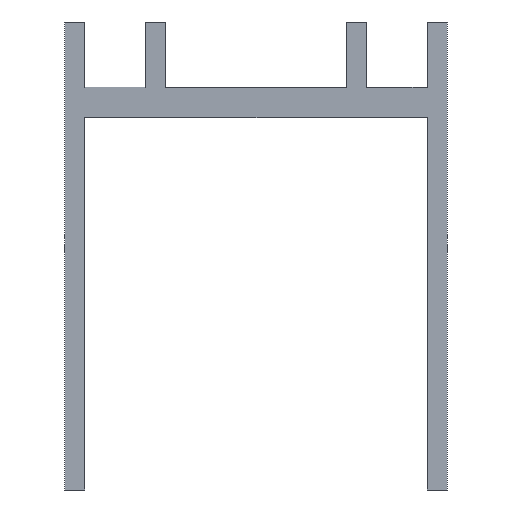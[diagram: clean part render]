
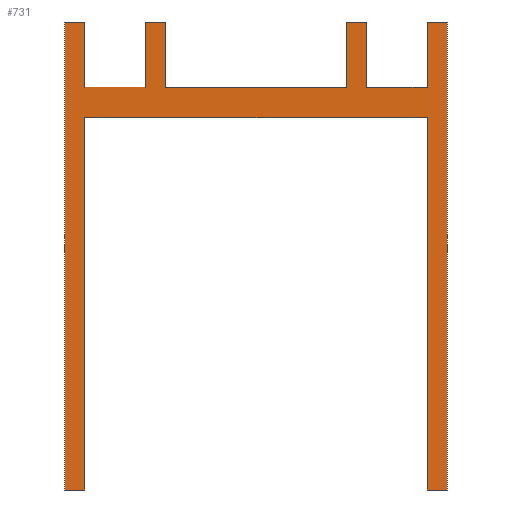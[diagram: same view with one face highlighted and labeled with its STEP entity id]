
A CAD part, left-side view. The second image highlights one B-rep face of the part: STEP entity #731.
In plain terms, the highlighted planar face has unit normal (-1, 0, 0).
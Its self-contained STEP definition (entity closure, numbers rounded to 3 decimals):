
#731=ADVANCED_FACE('',(#1305),#1306,.F.);
#1305=FACE_OUTER_BOUND('',#2034,.T.);
#1306=PLANE('',#2035);
#2034=EDGE_LOOP('',(#2889,#2890,#2891,#2892,#2893,#2894,#2895,#2896,#2897,#2898,#2899,#2900,#2901,#2902,#2903,#2904,#2905,#2906,#2907,#2908,#2909,#2910,#2911,#2912));
#2035=AXIS2_PLACEMENT_3D('',#2913,#2914,#2915);
#2889=ORIENTED_EDGE('',*,*,#3540,.T.);
#2890=ORIENTED_EDGE('',*,*,#3484,.F.);
#2891=ORIENTED_EDGE('',*,*,#3489,.F.);
#2892=ORIENTED_EDGE('',*,*,#3492,.F.);
#2893=ORIENTED_EDGE('',*,*,#3495,.T.);
#2894=ORIENTED_EDGE('',*,*,#3499,.T.);
#2895=ORIENTED_EDGE('',*,*,#3450,.T.);
#2896=ORIENTED_EDGE('',*,*,#3472,.F.);
#2897=ORIENTED_EDGE('',*,*,#3475,.F.);
#2898=ORIENTED_EDGE('',*,*,#3542,.F.);
#2899=ORIENTED_EDGE('',*,*,#3502,.F.);
#2900=ORIENTED_EDGE('',*,*,#3360,.F.);
#2901=ORIENTED_EDGE('',*,*,#3356,.T.);
#2902=ORIENTED_EDGE('',*,*,#3343,.T.);
#2903=ORIENTED_EDGE('',*,*,#3358,.F.);
#2904=ORIENTED_EDGE('',*,*,#3314,.F.);
#2905=ORIENTED_EDGE('',*,*,#3509,.T.);
#2906=ORIENTED_EDGE('',*,*,#3513,.T.);
#2907=ORIENTED_EDGE('',*,*,#3517,.F.);
#2908=ORIENTED_EDGE('',*,*,#3521,.T.);
#2909=ORIENTED_EDGE('',*,*,#3525,.T.);
#2910=ORIENTED_EDGE('',*,*,#3529,.F.);
#2911=ORIENTED_EDGE('',*,*,#3533,.F.);
#2912=ORIENTED_EDGE('',*,*,#3537,.F.);
#2913=CARTESIAN_POINT('',(0.0,26.75,7.5));
#2914=DIRECTION('',(1.0,0.,0.));
#2915=DIRECTION('',(0.,-1.0,0.0));
#3314=EDGE_CURVE('',#3848,#3821,#3850,.T.);
#3343=EDGE_CURVE('',#3894,#3892,#3895,.T.);
#3356=EDGE_CURVE('',#3909,#3894,#3912,.T.);
#3358=EDGE_CURVE('',#3821,#3892,#3914,.T.);
#3360=EDGE_CURVE('',#3909,#3916,#3917,.T.);
#3450=EDGE_CURVE('',#4058,#4056,#4059,.T.);
#3472=EDGE_CURVE('',#4083,#4056,#4085,.T.);
#3475=EDGE_CURVE('',#4087,#4083,#4090,.T.);
#3484=EDGE_CURVE('',#4100,#4102,#4103,.T.);
#3489=EDGE_CURVE('',#4108,#4100,#4110,.T.);
#3492=EDGE_CURVE('',#4113,#4108,#4115,.T.);
#3495=EDGE_CURVE('',#4113,#4118,#4119,.T.);
#3499=EDGE_CURVE('',#4118,#4058,#4124,.T.);
#3502=EDGE_CURVE('',#3916,#4127,#4128,.T.);
#3509=EDGE_CURVE('',#3848,#4136,#4138,.T.);
#3513=EDGE_CURVE('',#4136,#4142,#4144,.T.);
#3517=EDGE_CURVE('',#4148,#4142,#4150,.T.);
#3521=EDGE_CURVE('',#4148,#4154,#4156,.T.);
#3525=EDGE_CURVE('',#4154,#4160,#4162,.T.);
#3529=EDGE_CURVE('',#4166,#4160,#4168,.T.);
#3533=EDGE_CURVE('',#4172,#4166,#4174,.T.);
#3537=EDGE_CURVE('',#4178,#4172,#4180,.T.);
#3540=EDGE_CURVE('',#4178,#4102,#4183,.T.);
#3542=EDGE_CURVE('',#4127,#4087,#4185,.T.);
#3821=VERTEX_POINT('',#4291);
#3848=VERTEX_POINT('',#4324);
#3850=LINE('',#4327,#4328);
#3892=VERTEX_POINT('',#4382);
#3894=VERTEX_POINT('',#4384);
#3895=LINE('',#4385,#4386);
#3909=VERTEX_POINT('',#4403);
#3912=LINE('',#4407,#4408);
#3914=LINE('',#4410,#4411);
#3916=VERTEX_POINT('',#4413);
#3917=LINE('',#4414,#4415);
#4056=VERTEX_POINT('',#4606);
#4058=VERTEX_POINT('',#4609);
#4059=LINE('',#4610,#4611);
#4083=VERTEX_POINT('',#4650);
#4085=LINE('',#4653,#4654);
#4087=VERTEX_POINT('',#4656);
#4090=LINE('',#4660,#4661);
#4100=VERTEX_POINT('',#4677);
#4102=VERTEX_POINT('',#4680);
#4103=LINE('',#4681,#4682);
#4108=VERTEX_POINT('',#4689);
#4110=LINE('',#4692,#4693);
#4113=VERTEX_POINT('',#4696);
#4115=LINE('',#4699,#4700);
#4118=VERTEX_POINT('',#4704);
#4119=LINE('',#4705,#4706);
#4124=LINE('',#4713,#4714);
#4127=VERTEX_POINT('',#4718);
#4128=LINE('',#4719,#4720);
#4136=VERTEX_POINT('',#4731);
#4138=LINE('',#4734,#4735);
#4142=VERTEX_POINT('',#4740);
#4144=LINE('',#4743,#4744);
#4148=VERTEX_POINT('',#4749);
#4150=LINE('',#4752,#4753);
#4154=VERTEX_POINT('',#4758);
#4156=LINE('',#4761,#4762);
#4160=VERTEX_POINT('',#4767);
#4162=LINE('',#4770,#4771);
#4166=VERTEX_POINT('',#4776);
#4168=LINE('',#4779,#4780);
#4172=VERTEX_POINT('',#4785);
#4174=LINE('',#4788,#4789);
#4178=VERTEX_POINT('',#4794);
#4180=LINE('',#4797,#4798);
#4183=LINE('',#4802,#4803);
#4185=LINE('',#4805,#4806);
#4291=CARTESIAN_POINT('',(0.0,11.005,40.0));
#4324=CARTESIAN_POINT('',(0.0,17.0,40.0));
#4327=CARTESIAN_POINT('',(0.0,17.0,40.0));
#4328=VECTOR('',#4891,1.0);
#4382=CARTESIAN_POINT('',(0.0,11.005,40.005));
#4384=CARTESIAN_POINT('',(0.0,11.003,40.005));
#4385=CARTESIAN_POINT('',(0.0,11.003,40.005));
#4386=VECTOR('',#4931,1.0);
#4403=CARTESIAN_POINT('',(0.0,11.003,40.0));
#4407=CARTESIAN_POINT('',(0.0,11.003,40.0));
#4408=VECTOR('',#4948,1.0);
#4410=CARTESIAN_POINT('',(0.0,11.005,40.0));
#4411=VECTOR('',#4949,1.0);
#4413=CARTESIAN_POINT('',(0.0,11.0,40.0));
#4414=CARTESIAN_POINT('',(0.0,17.0,40.0));
#4415=VECTOR('',#4950,1.0);
#4606=CARTESIAN_POINT('',(0.0,-9.0,40.0));
#4609=CARTESIAN_POINT('',(0.0,-9.0,46.5));
#4610=CARTESIAN_POINT('',(0.0,-9.0,46.5));
#4611=VECTOR('',#5040,1.0);
#4650=CARTESIAN_POINT('',(0.0,9.0,40.0));
#4653=CARTESIAN_POINT('',(0.0,17.0,40.0));
#4654=VECTOR('',#5057,1.0);
#4656=CARTESIAN_POINT('',(0.0,9.0,46.5));
#4660=CARTESIAN_POINT('',(0.0,9.0,46.5));
#4661=VECTOR('',#5059,1.0);
#4677=CARTESIAN_POINT('',(0.0,-17.0,46.5));
#4680=CARTESIAN_POINT('',(0.0,-19.0,46.5));
#4681=CARTESIAN_POINT('',(0.0,-17.0,46.5));
#4682=VECTOR('',#5067,1.0);
#4689=CARTESIAN_POINT('',(0.0,-17.0,40.0));
#4692=CARTESIAN_POINT('',(0.0,-17.0,0.0));
#4693=VECTOR('',#5071,1.0);
#4696=CARTESIAN_POINT('',(0.0,-11.0,40.0));
#4699=CARTESIAN_POINT('',(0.0,17.0,40.0));
#4700=VECTOR('',#5073,1.0);
#4704=CARTESIAN_POINT('',(0.0,-11.0,46.5));
#4705=CARTESIAN_POINT('',(0.0,-11.0,40.0));
#4706=VECTOR('',#5075,1.0);
#4713=CARTESIAN_POINT('',(0.0,-11.0,46.5));
#4714=VECTOR('',#5078,1.0);
#4718=CARTESIAN_POINT('',(0.0,11.0,46.5));
#4719=CARTESIAN_POINT('',(0.0,11.0,40.0));
#4720=VECTOR('',#5080,1.0);
#4731=CARTESIAN_POINT('',(0.0,17.0,46.5));
#4734=CARTESIAN_POINT('',(0.0,17.0,0.0));
#4735=VECTOR('',#5085,1.0);
#4740=CARTESIAN_POINT('',(0.0,19.0,46.5));
#4743=CARTESIAN_POINT('',(0.0,17.0,46.5));
#4744=VECTOR('',#5088,1.0);
#4749=CARTESIAN_POINT('',(0.0,19.0,0.0));
#4752=CARTESIAN_POINT('',(0.0,19.,7.5));
#4753=VECTOR('',#5091,1.0);
#4758=CARTESIAN_POINT('',(0.0,17.0,0.0));
#4761=CARTESIAN_POINT('',(0.0,19.5,0.0));
#4762=VECTOR('',#5094,1.0);
#4767=CARTESIAN_POINT('',(0.0,17.0,37.0));
#4770=CARTESIAN_POINT('',(0.0,17.0,0.0));
#4771=VECTOR('',#5097,1.0);
#4776=CARTESIAN_POINT('',(0.0,-17.0,37.0));
#4779=CARTESIAN_POINT('',(0.0,-17.0,37.0));
#4780=VECTOR('',#5100,1.0);
#4785=CARTESIAN_POINT('',(0.0,-17.0,0.0));
#4788=CARTESIAN_POINT('',(0.0,-17.0,0.0));
#4789=VECTOR('',#5103,1.0);
#4794=CARTESIAN_POINT('',(0.0,-19.0,0.0));
#4797=CARTESIAN_POINT('',(0.0,-19.5,0.0));
#4798=VECTOR('',#5106,1.0);
#4802=CARTESIAN_POINT('',(0.0,-19.,7.5));
#4803=VECTOR('',#5108,1.0);
#4805=CARTESIAN_POINT('',(0.0,11.0,46.5));
#4806=VECTOR('',#5109,1.0);
#4891=DIRECTION('',(0.,-1.0,0.));
#4931=DIRECTION('',(0.0,1.0,0.));
#4948=DIRECTION('',(0.0,0.,1.0));
#4949=DIRECTION('',(0.0,0.,1.0));
#4950=DIRECTION('',(0.,-1.0,0.));
#5040=DIRECTION('',(0.0,0.,-1.0));
#5057=DIRECTION('',(0.,-1.0,0.));
#5059=DIRECTION('',(0.0,0.,-1.0));
#5067=DIRECTION('',(0.,-1.0,0.));
#5071=DIRECTION('',(0.,0.0,1.0));
#5073=DIRECTION('',(0.,-1.0,0.));
#5075=DIRECTION('',(0.0,0.,1.0));
#5078=DIRECTION('',(0.0,1.0,0.));
#5080=DIRECTION('',(0.0,0.,1.0));
#5085=DIRECTION('',(0.,0.0,1.0));
#5088=DIRECTION('',(0.,1.0,0.));
#5091=DIRECTION('',(0.,0.,1.0));
#5094=DIRECTION('',(0.,-1.0,0.0));
#5097=DIRECTION('',(0.,0.0,1.0));
#5100=DIRECTION('',(0.,1.0,0.));
#5103=DIRECTION('',(0.,0.0,1.0));
#5106=DIRECTION('',(0.,1.0,0.0));
#5108=DIRECTION('',(0.,0.,1.0));
#5109=DIRECTION('',(0.0,-1.0,0.));
